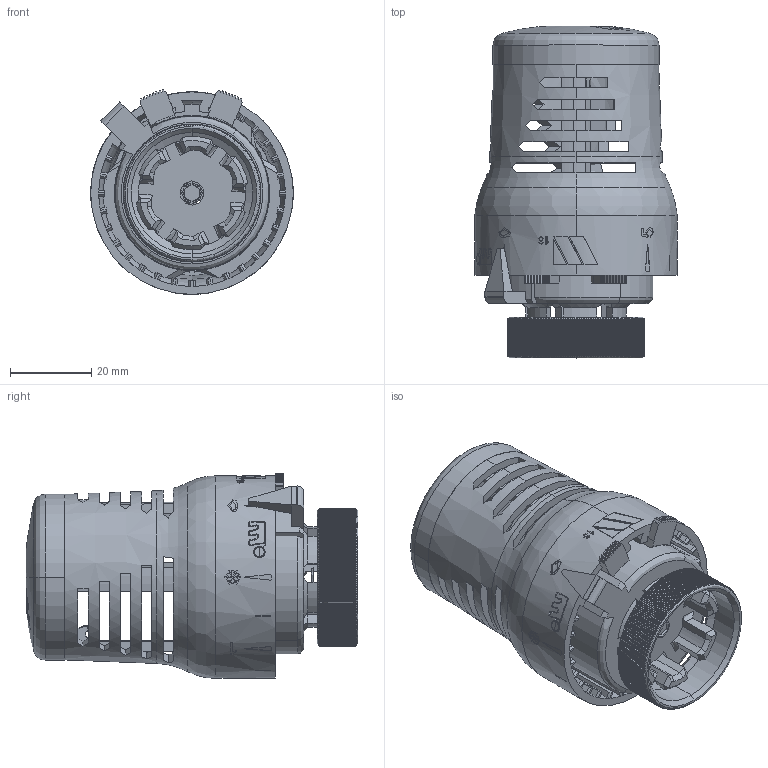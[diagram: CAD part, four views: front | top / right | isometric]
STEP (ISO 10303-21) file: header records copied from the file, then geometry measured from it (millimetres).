
FILE_DESCRIPTION (( 'STEP AP214' ), '1' );
FILE_NAME ('148A.STEP', '2014-06-10T13:12:36', ( 'Adminwatts' ), ( 'Microsoft' ), 'SwSTEP 2.0', 'SolidWorks 2014', '' );
FILE_SCHEMA (( 'AUTOMOTIVE_DESIGN' ));
Length unit declared in the file: millimetre
Products named in the file (1): 148A
Bounding box: 50 x 81.91 x 50.56 mm (x, y, z)
Surface area: 75702 mm2 (no closed solid volume)
Topology: 0 solids, 24 shells, 1249 faces, 5745 edges, 4181 vertices
Faces by surface type: plane 631, cylinder 384, bspline 134, cone 51, torus 49
Entity records: 85904 total; most frequent: CARTESIAN_POINT 32164, ORIENTED_EDGE 8529, DIRECTION 6451, EDGE_CURVE 5745, VERTEX_POINT 4181, B_SPLINE_CURVE_WITH_KNOTS 2509, AXIS2_PLACEMENT_3D 2199, VECTOR 2053
